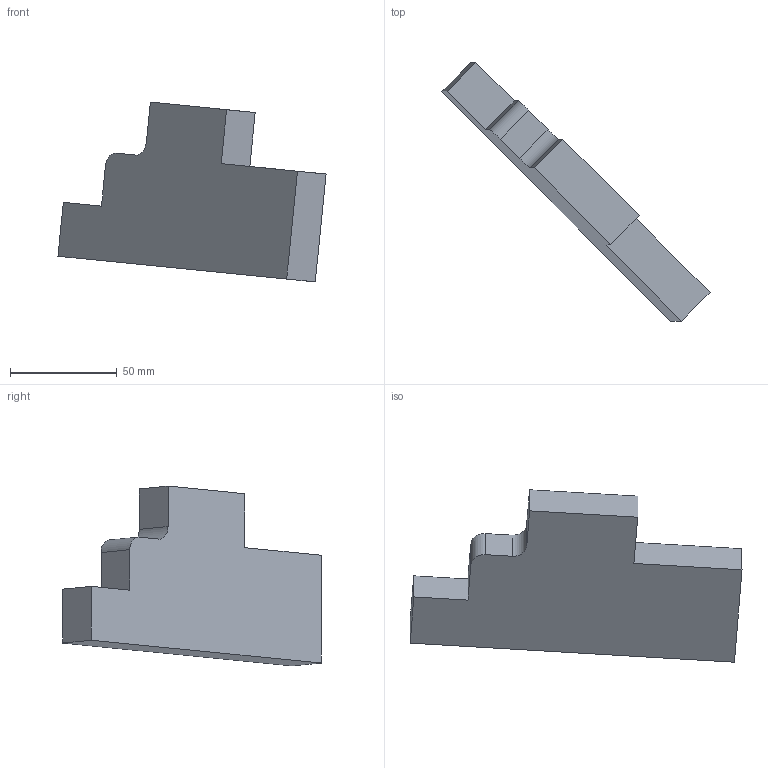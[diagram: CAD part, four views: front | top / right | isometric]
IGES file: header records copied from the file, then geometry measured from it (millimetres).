
Start section: START RECORD GO HERE.
Global section: file name: C:\Documents and Settings\Administrator\Desktop\Temporary Directory\Lesson 5 Exercise 3.igs; native system: IBM CATIA IGES - CATIA Version 5 Release 9 ; preprocessor: CATIA Version 5 Release 9 ; organization: DASSAULT SYSTEMES; date: 20021127.142232; units: inch
Bounding box: 125.68 x 121.23 x 84.3 mm (x, y, z)
Surface area: 25886.7 mm2 (no closed solid volume)
Topology: 0 solids, 0 shells, 20 faces, 96 edges, 96 vertices
Faces by surface type: plane 14, revolution 6
